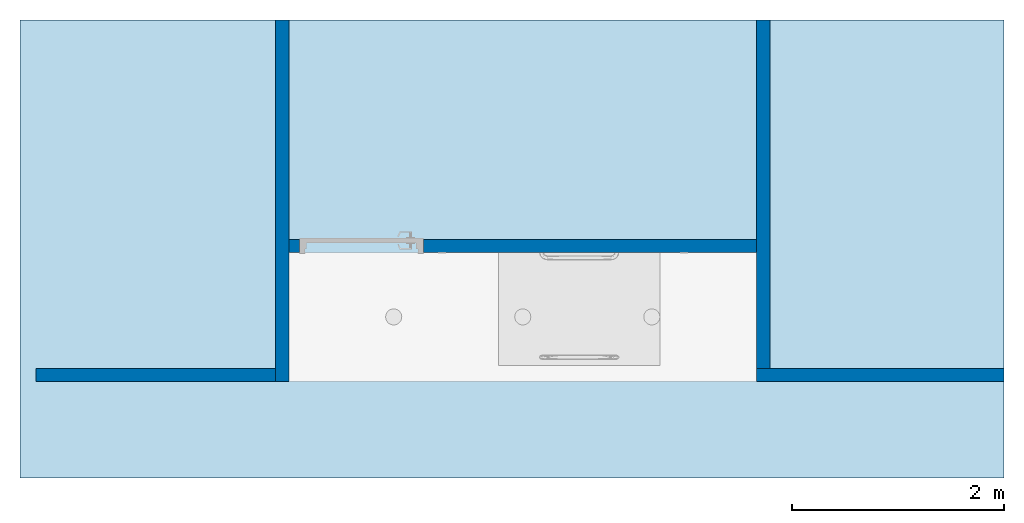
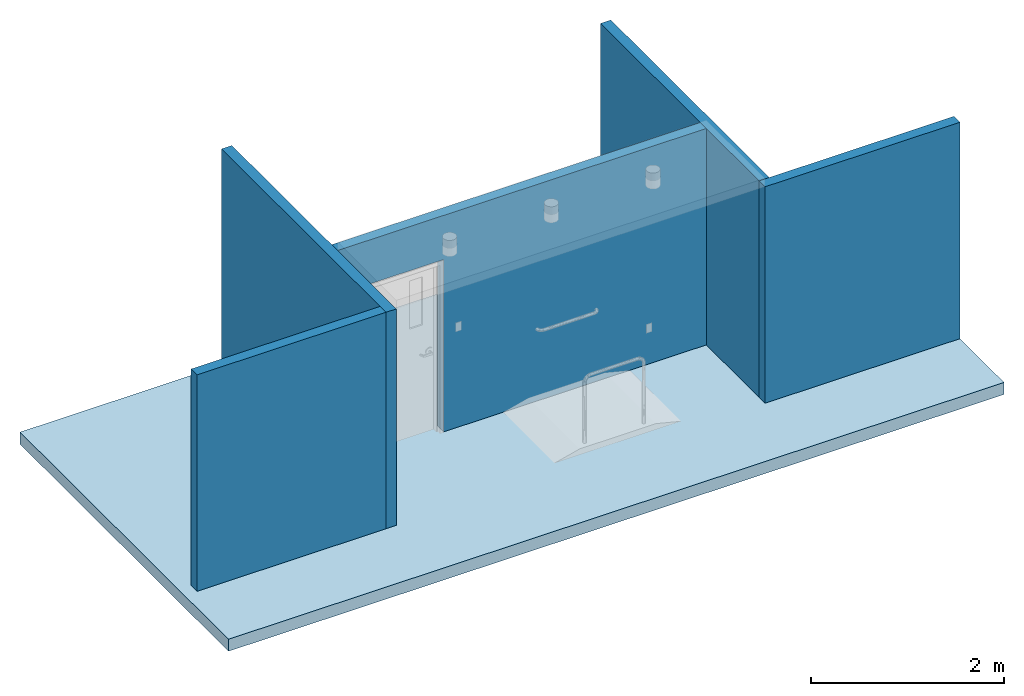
# One storey, part 1 of 5: 5 walls, 1 slab, 1 opening.
"""IFC2X3 building model written with IfcOpenShell, lengths in feet."""

from ifc_helpers import new_model, entity, si_unit, converted_unit, derived_unit, direction, frame, frame_2d, origin, place, context, subcontext, project, spatial, rectangle, extrude, material, layer, layer_set, layer_usage, type_object, element, save


model = new_model("IFC2X3")

# Units and contexts
model_context = context("Model", 3, precision=0.0001, world=origin(), true_north=direction((6.12303176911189e-17, 1.0)))
body_context = subcontext(model_context, "Body", "Model", "MODEL_VIEW")
ifc_project = project(units=[converted_unit("LENGTHUNIT", "FOOT", entity("IfcRatioMeasure", 0.3048), si_unit("LENGTHUNIT", "METRE"), dimensions=[1, 0, 0, 0, 0, 0, 0]), converted_unit("AREAUNIT", "SQUARE FOOT", entity("IfcRatioMeasure", 0.09290304), si_unit("AREAUNIT", "SQUARE_METRE"), dimensions=[2, 0, 0, 0, 0, 0, 0]), converted_unit("VOLUMEUNIT", "CUBIC FOOT", entity("IfcRatioMeasure", 0.028316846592), si_unit("VOLUMEUNIT", "CUBIC_METRE"), dimensions=[3, 0, 0, 0, 0, 0, 0]), converted_unit("PLANEANGLEUNIT", "DEGREE", entity("IfcRatioMeasure", 0.0174532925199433), si_unit("PLANEANGLEUNIT", "RADIAN"), dimensions=[0, 0, 0, 0, 0, 0, 0]), si_unit("MASSUNIT", "GRAM", prefix="KILO"), derived_unit("MASSDENSITYUNIT", [(si_unit("MASSUNIT", "GRAM", prefix="KILO"), 1), (si_unit("LENGTHUNIT", "METRE"), -3)]), si_unit("TIMEUNIT", "SECOND"), si_unit("FREQUENCYUNIT", "HERTZ"), si_unit("THERMODYNAMICTEMPERATUREUNIT", "DEGREE_CELSIUS"), derived_unit("THERMALTRANSMITTANCEUNIT", [(si_unit("MASSUNIT", "GRAM", prefix="KILO"), 1), (si_unit("THERMODYNAMICTEMPERATUREUNIT", "KELVIN"), -1), (si_unit("TIMEUNIT", "SECOND"), -3)]), derived_unit("VOLUMETRICFLOWRATEUNIT", [(si_unit("LENGTHUNIT", "METRE"), 3), (si_unit("TIMEUNIT", "SECOND"), -1)]), si_unit("ELECTRICCURRENTUNIT", "AMPERE"), si_unit("ELECTRICVOLTAGEUNIT", "VOLT"), si_unit("POWERUNIT", "WATT"), si_unit("FORCEUNIT", "NEWTON"), si_unit("ILLUMINANCEUNIT", "LUX"), si_unit("LUMINOUSFLUXUNIT", "LUMEN"), si_unit("LUMINOUSINTENSITYUNIT", "CANDELA"), derived_unit("USERDEFINED", [(si_unit("MASSUNIT", "GRAM", prefix="KILO"), -1), (si_unit("LENGTHUNIT", "METRE"), -2), (si_unit("TIMEUNIT", "SECOND"), 3), (si_unit("LUMINOUSFLUXUNIT", "LUMEN"), 1)]), derived_unit("LINEARVELOCITYUNIT", [(si_unit("LENGTHUNIT", "METRE"), 1), (si_unit("TIMEUNIT", "SECOND"), -1)]), si_unit("PRESSUREUNIT", "PASCAL"), derived_unit("USERDEFINED", [(si_unit("LENGTHUNIT", "METRE"), -2), (si_unit("MASSUNIT", "GRAM", prefix="KILO"), 1), (si_unit("TIMEUNIT", "SECOND"), -2)])], contexts=[model_context])

# Site, building, storey
site_placement = place(None, origin())
site = spatial("IfcSite", under=ifc_project, at=site_placement, Name="Default", CompositionType="ELEMENT")
building_placement = place(site_placement, origin())
building = spatial("IfcBuilding", under=site, at=building_placement, Name="OUTPATIENT / PACT CLINIC (Ch. 265)", CompositionType="ELEMENT")
storey_placement = place(building_placement, origin())
storey = spatial("IfcBuildingStorey", under=building, at=storey_placement, Name="DATUM", CompositionType="ELEMENT", Elevation=0.0)

# Slab
ifc_material = material(Name="<Unnamed>")
ifc_layer_1 = layer(ifc_material, 0.5)
ifc_layer_set_1 = layer_set([ifc_layer_1], Name="Floor:Generic - 6\"")
ifc_layer_usage_1 = layer_usage(ifc_layer_set_1, "AXIS3", "POSITIVE", 0.0)
slab_placement = place(storey_placement, origin())
element("IfcSlab", 1, at=slab_placement, inside=storey, material=ifc_layer_usage_1, Name="Floor:Generic - 6\"", ObjectType="Floor:Generic - 6\"", PredefinedType="FLOOR", context=body_context, shape_type="SweptSolid", body=[
    extrude(rectangle(XDim=14.203125, YDim=30.4999999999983, at=frame_2d((0.0, 5.6843418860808e-14), x_axis=(1.0, 0.0))), frame((-429.622660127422, -857.115937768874, 0.0), z_axis=(0.0, 0.0, -1.0), x_axis=(0.0, 1.0, 0.0)), (0.0, 0.0, 1.0), 0.5),
])

# Walls
ifc_layer_2 = layer(ifc_material, 0.40625)
ifc_layer_set_2 = layer_set([ifc_layer_2], Name="Basic Wall:Interior - 4 7/8\"")
ifc_layer_usage_2 = layer_usage(ifc_layer_set_2, "AXIS2", "NEGATIVE", 0.203125)
wall_type = type_object("IfcWallType", Name="Basic Wall:Interior - 4 7/8\"", PredefinedType="STANDARD", material=ifc_layer_set_2)
wall_1_placement = place(storey_placement, frame((-414.372660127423, -861.014375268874, 0.0), z_axis=(0.0, 0.0, 1.0), x_axis=(-1.0, 0.0, 0.0)))
element("IfcWallStandardCase", 2, at=wall_1_placement, inside=storey, type_object=wall_type, material=ifc_layer_usage_2, Name="Basic Wall:Interior - 4 7/8\"", ObjectType="Basic Wall:Interior - 4 7/8\"", context=body_context, shape_type="SweptSolid", body=[
    extrude(rectangle(XDim=7.66666666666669, YDim=0.40625, at=frame_2d((3.83333333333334, 0.0), x_axis=(-1.0, 0.0))), origin(), (0.0, 0.0, 1.0), 9.0),
])
ifc_layer_usage_3 = layer_usage(ifc_layer_set_2, "AXIS2", "NEGATIVE", 0.203125)
wall_2_placement = place(storey_placement, frame((-421.836201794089, -850.014375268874, 0.0), z_axis=(0.0, 0.0, 1.0), x_axis=(0.0, -1.0, 0.0)))
element("IfcWallStandardCase", 3, at=wall_2_placement, inside=storey, type_object=wall_type, material=ifc_layer_usage_3, Name="Basic Wall:Interior - 4 7/8\"", ObjectType="Basic Wall:Interior - 4 7/8\"", context=body_context, shape_type="SweptSolid", body=[
    extrude(rectangle(XDim=10.796875, YDim=0.40625, at=frame_2d((5.3984375, -5.27355936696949e-16), x_axis=(-1.0, 0.0))), origin(), (0.0, 0.0, 1.0), 9.0),
])
ifc_layer_usage_4 = layer_usage(ifc_layer_set_2, "AXIS2", "NEGATIVE", 0.203125)
wall_3_placement = place(storey_placement, frame((-436.742451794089, -850.014375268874, 0.0), z_axis=(0.0, 0.0, 1.0), x_axis=(0.0, -1.0, 0.0)))
element("IfcWallStandardCase", 4, at=wall_3_placement, inside=storey, type_object=wall_type, material=ifc_layer_usage_4, Name="Basic Wall:Interior - 4 7/8\"", ObjectType="Basic Wall:Interior - 4 7/8\"", context=body_context, shape_type="SweptSolid", body=[
    extrude(rectangle(XDim=11.203125, YDim=0.40625, at=frame_2d((5.6015625, 0.0), x_axis=(-1.0, 0.0))), origin(), (0.0, 0.0, 1.0), 9.0),
])

# Wall, opening
ifc_layer_usage_5 = layer_usage(ifc_layer_set_2, "AXIS2", "NEGATIVE", 0.203125)
wall_4_placement = place(storey_placement, frame((-422.03932679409, -857.014375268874, 0.0), z_axis=(0.0, 0.0, 1.0), x_axis=(-1.0, 0.0, 0.0)))
wall_4 = element("IfcWallStandardCase", 5, at=wall_4_placement, inside=storey, type_object=wall_type, material=ifc_layer_usage_5, Name="Basic Wall:Interior - 4 7/8\"", ObjectType="Basic Wall:Interior - 4 7/8\"", context=body_context, shape_type="SweptSolid", body=[
    extrude(rectangle(XDim=14.4999999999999, YDim=0.40625, at=frame_2d((7.24999999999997, 0.0), x_axis=(-1.0, 0.0))), origin(), (0.0, 0.0, 1.0), 9.0),
])
opening_placement = place(wall_4_placement, frame((14.1666666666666, 0.203125, 0.0)))
element("IfcOpeningElement", 6, at=opening_placement, cuts=wall_4, Name="Single - Panel Lite:42\" x 84\" Narrow Lite:1", ObjectType="Opening", context=body_context, shape_type="SweptSolid", body=[
    extrude(rectangle(XDim=3.83333333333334, YDim=7.16666666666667, at=frame_2d((3.58333333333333, 1.91666666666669), x_axis=(0.0, -1.0))), frame((0.0, 0.0, 0.0), z_axis=(0.0, -1.0, 0.0), x_axis=(0.0, 0.0, 1.0)), (0.0, 0.0, 1.0), 0.40625),
])

# Wall
ifc_layer_usage_6 = layer_usage(ifc_layer_set_2, "AXIS2", "NEGATIVE", 0.203125)
wall_5_placement = place(storey_placement, frame((-436.945576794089, -861.014375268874, 0.0), z_axis=(0.0, 0.0, 1.0), x_axis=(-1.0, 0.0, 0.0)))
element("IfcWallStandardCase", 7, at=wall_5_placement, inside=storey, type_object=wall_type, material=ifc_layer_usage_6, Name="Basic Wall:Interior - 4 7/8\"", ObjectType="Basic Wall:Interior - 4 7/8\"", context=body_context, shape_type="SweptSolid", body=[
    extrude(rectangle(XDim=7.42708333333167, YDim=0.40625, at=frame_2d((3.71354166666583, 0.0), x_axis=(-1.0, 0.0))), origin(), (0.0, 0.0, 1.0), 9.0),
])

save(model, "model.ifc")
